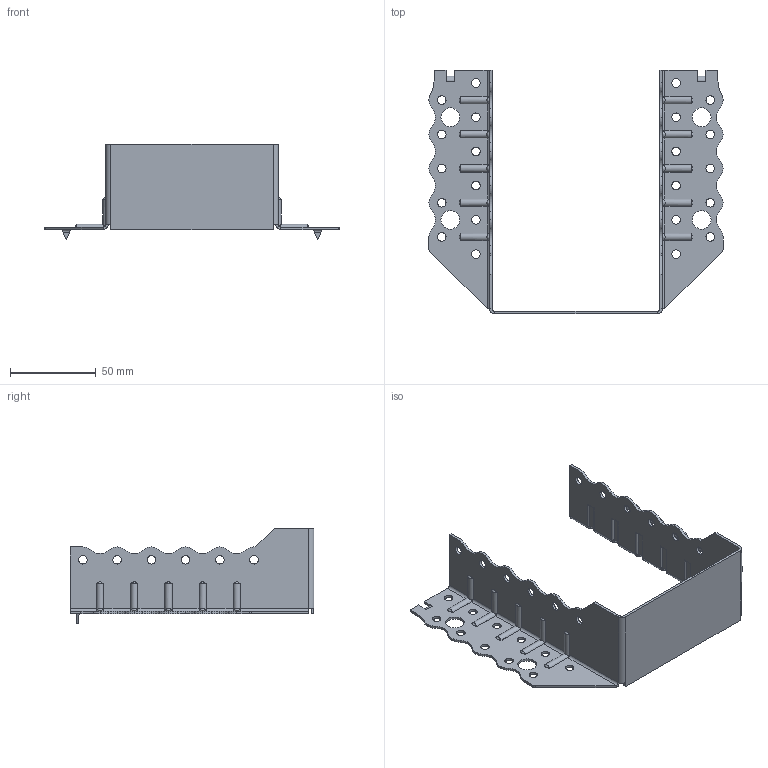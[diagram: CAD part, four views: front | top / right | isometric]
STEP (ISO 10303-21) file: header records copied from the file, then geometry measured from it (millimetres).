
FILE_DESCRIPTION (( 'STEP AP203' ), '1' );
FILE_NAME ('30622TOPK.STEP', '2021-04-08T14:47:43', ( '' ), ( '' ), 'SwSTEP 2.0', 'SolidWorks 2013', '' );
FILE_SCHEMA (( 'CONFIG_CONTROL_DESIGN' ));
Length unit declared in the file: millimetre
Products named in the file (1): 30622TOPK
Bounding box: 172 x 142.5 x 56 mm (x, y, z)
Volume: 34902.5 mm3; surface area: 49892.6 mm2
Topology: 1 solids, 1 shells, 426 faces, 1148 edges, 724 vertices
Faces by surface type: cylinder 267, plane 119, torus 20, bspline 20
Entity records: 15806 total; most frequent: CARTESIAN_POINT 4995, ORIENTED_EDGE 2296, DIRECTION 2214, EDGE_CURVE 1148, AXIS2_PLACEMENT_3D 807, VERTEX_POINT 724, VECTOR 600, LINE 600
